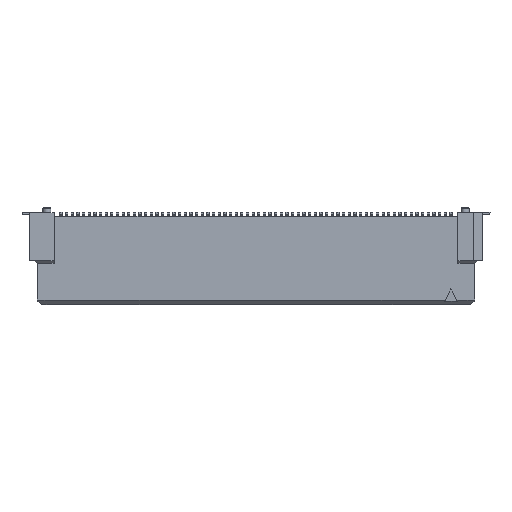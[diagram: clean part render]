
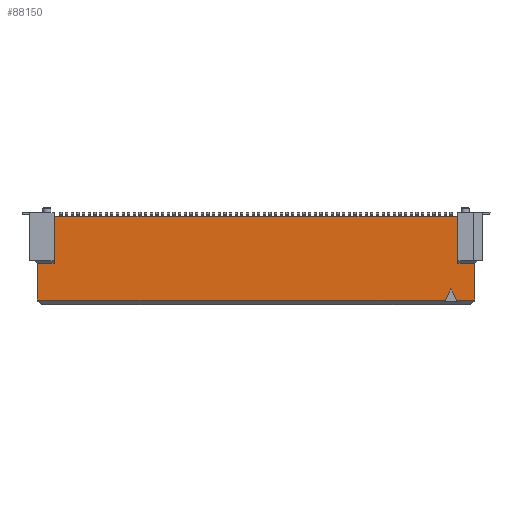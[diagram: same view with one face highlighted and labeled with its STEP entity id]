
A CAD part, front view. The second image highlights one B-rep face of the part: STEP entity #88150.
In plain terms, the highlighted planar face has unit normal (0, -1, 0).
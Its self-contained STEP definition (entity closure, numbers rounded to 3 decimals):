
#4230=CARTESIAN_POINT('',(23.522,1.44,
10.32));
#4240=VERTEX_POINT('',#4230);
#5030=CARTESIAN_POINT('',(23.522,1.44,
6.19));
#5040=VERTEX_POINT('',#5030);
#5070=CARTESIAN_POINT('',(23.522,1.44,
8.755));
#5080=DIRECTION('',(0.,0.,
1.));
#5090=VECTOR('',#5080,1.);
#5100=LINE('',#5070,#5090);
#5110=EDGE_CURVE('',#5040,#4240,#5100,.T.);
#8830=CARTESIAN_POINT('',(25.022,1.44,
6.19));
#8840=VERTEX_POINT('',#8830);
#8870=CARTESIAN_POINT('',(24.372,1.44,
6.19));
#8880=DIRECTION('',(-1.,0.,0.));
#8890=VECTOR('',#8880,1.);
#8900=LINE('',#8870,#8890);
#8910=EDGE_CURVE('',#8840,#5040,#8900,.T.);
#17000=CARTESIAN_POINT('',(25.022,1.44,
3.06));
#17010=VERTEX_POINT('',#17000);
#17040=CARTESIAN_POINT('',(25.022,1.44,
10.39));
#17050=DIRECTION('',(0.,0.,
1.));
#17060=VECTOR('',#17050,1.);
#17070=LINE('',#17040,#17060);
#17080=EDGE_CURVE('',#17010,#8840,#17070,.T.);
#23030=CARTESIAN_POINT('',(24.974,1.44,
2.91));
#23040=VERTEX_POINT('',#23030);
#23070=CARTESIAN_POINT('',(27.371,1.44,
10.39));
#23080=DIRECTION('',(-0.305,0.,
-0.952));
#23090=VECTOR('',#23080,1.);
#23100=LINE('',#23070,#23090);
#23110=EDGE_CURVE('',#17010,#23040,#23100,.T.);
#25490=CARTESIAN_POINT('',(22.912,1.44,
3.91));
#25500=VERTEX_POINT('',#25490);
#25530=CARTESIAN_POINT('',(20.49,1.44,
8.755));
#25540=DIRECTION('',(-0.447,0.,
0.894));
#25550=VECTOR('',#25540,1.);
#25560=LINE('',#25530,#25550);
#25570=CARTESIAN_POINT('',(23.412,1.44,
2.91));
#25580=VERTEX_POINT('',#25570);
#25590=EDGE_CURVE('',#25580,#25500,#25560,.T.);
#86570=CARTESIAN_POINT('',(22.412,1.44,
2.91));
#86580=VERTEX_POINT('',#86570);
#86610=CARTESIAN_POINT('',(25.335,1.44,
8.755));
#86620=DIRECTION('',(-0.447,0.,
-0.894));
#86630=VECTOR('',#86620,1.);
#86640=LINE('',#86610,#86630);
#86650=EDGE_CURVE('',#25500,#86580,#86640,.T.);
#86700=CARTESIAN_POINT('',(2.172,1.44,
2.91));
#86710=DIRECTION('',(0.,1.,
0.));
#86720=DIRECTION('',(0.,0.,
1.));
#86730=AXIS2_PLACEMENT_3D('',#86700,#86710,#86720);
#86740=PLANE('',#86730);
#86750=CARTESIAN_POINT('',(-8.848,1.44,
2.91));
#86760=DIRECTION('',(1.,0.,0.));
#86770=VECTOR('',#86760,1.);
#86780=LINE('',#86750,#86770);
#86790=CARTESIAN_POINT('',(-12.348,1.44,
2.91));
#86800=VERTEX_POINT('',#86790);
#86810=CARTESIAN_POINT('',(-1.838,1.44,
2.91));
#86820=VERTEX_POINT('',#86810);
#86830=EDGE_CURVE('',#86800,#86820,#86780,.T.);
#86840=ORIENTED_EDGE('',*,*,#86830,.T.);
#86850=CARTESIAN_POINT('',(-5.542,1.44,
2.91));
#86860=DIRECTION('',(1.,0.,0.));
#86870=VECTOR('',#86860,1.);
#86880=LINE('',#86850,#86870);
#86890=CARTESIAN_POINT('',(-13.649,1.44,
2.91));
#86900=VERTEX_POINT('',#86890);
#86910=EDGE_CURVE('',#86900,#86800,#86880,.T.);
#86920=ORIENTED_EDGE('',*,*,#86910,.T.);
#86930=CARTESIAN_POINT('',(-16.046,1.44,
10.39));
#86940=DIRECTION('',(0.305,0.,
-0.952));
#86950=VECTOR('',#86940,1.);
#86960=LINE('',#86930,#86950);
#86970=CARTESIAN_POINT('',(-13.698,1.44,
3.06));
#86980=VERTEX_POINT('',#86970);
#86990=EDGE_CURVE('',#86980,#86900,#86960,.T.);
#87000=ORIENTED_EDGE('',*,*,#86990,.T.);
#87010=CARTESIAN_POINT('',(-13.698,1.44,
10.39));
#87020=DIRECTION('',(0.,0.,
1.));
#87030=VECTOR('',#87020,1.);
#87040=LINE('',#87010,#87030);
#87050=CARTESIAN_POINT('',(-13.698,1.44,
6.19));
#87060=VERTEX_POINT('',#87050);
#87070=EDGE_CURVE('',#86980,#87060,#87040,.T.);
#87080=ORIENTED_EDGE('',*,*,#87070,.F.);
#87090=CARTESIAN_POINT('',(-13.048,1.44,
6.19));
#87100=DIRECTION('',(1.,0.,0.));
#87110=VECTOR('',#87100,1.);
#87120=LINE('',#87090,#87110);
#87130=CARTESIAN_POINT('',(-12.198,1.44,
6.19));
#87140=VERTEX_POINT('',#87130);
#87150=EDGE_CURVE('',#87060,#87140,#87120,.T.);
#87160=ORIENTED_EDGE('',*,*,#87150,.F.);
#87170=CARTESIAN_POINT('',(-12.198,1.44,
8.755));
#87180=DIRECTION('',(0.,0.,
1.));
#87190=VECTOR('',#87180,1.);
#87200=LINE('',#87170,#87190);
#87210=CARTESIAN_POINT('',(-12.198,1.44,
10.32));
#87220=VERTEX_POINT('',#87210);
#87230=EDGE_CURVE('',#87140,#87220,#87200,.T.);
#87240=ORIENTED_EDGE('',*,*,#87230,.F.);
#87250=CARTESIAN_POINT('',(-12.348,1.44,
10.32));
#87260=DIRECTION('',(1.,0.,0.));
#87270=VECTOR('',#87260,1.);
#87280=LINE('',#87250,#87270);
#87290=CARTESIAN_POINT('',(-11.838,1.44,
10.32));
#87300=VERTEX_POINT('',#87290);
#87310=EDGE_CURVE('',#87220,#87300,#87280,.T.);
#87320=ORIENTED_EDGE('',*,*,#87310,.F.);
#87330=CARTESIAN_POINT('',(-30.088,1.44,
10.32));
#87340=DIRECTION('',(1.,0.,0.));
#87350=VECTOR('',#87340,1.);
#87360=LINE('',#87330,#87350);
#87370=CARTESIAN_POINT('',(-8.338,1.44,
10.32));
#87380=VERTEX_POINT('',#87370);
#87390=EDGE_CURVE('',#87300,#87380,#87360,.T.);
#87400=ORIENTED_EDGE('',*,*,#87390,.F.);
#87410=CARTESIAN_POINT('',(-24.,1.44,
10.32));
#87420=DIRECTION('',(1.,0.,0.));
#87430=VECTOR('',#87420,1.);
#87440=LINE('',#87410,#87430);
#87450=CARTESIAN_POINT('',(-1.838,1.44,
10.32));
#87460=VERTEX_POINT('',#87450);
#87470=EDGE_CURVE('',#87380,#87460,#87440,.T.);
#87480=ORIENTED_EDGE('',*,*,#87470,.F.);
#87490=CARTESIAN_POINT('',(-39.,1.44,
10.32));
#87500=DIRECTION('',(1.,0.,0.));
#87510=VECTOR('',#87500,1.);
#87520=LINE('',#87490,#87510);
#87530=CARTESIAN_POINT('',(13.162,1.44,
10.32));
#87540=VERTEX_POINT('',#87530);
#87550=EDGE_CURVE('',#87460,#87540,#87520,.T.);
#87560=ORIENTED_EDGE('',*,*,#87550,.F.);
#87570=CARTESIAN_POINT('',(-9.,1.44,
10.32));
#87580=DIRECTION('',(1.,0.,0.));
#87590=VECTOR('',#87580,1.);
#87600=LINE('',#87570,#87590);
#87610=CARTESIAN_POINT('',(19.162,1.44,
10.32));
#87620=VERTEX_POINT('',#87610);
#87630=EDGE_CURVE('',#87540,#87620,#87600,.T.);
#87640=ORIENTED_EDGE('',*,*,#87630,.F.);
#87650=CARTESIAN_POINT('',(-2.588,1.44,
10.32));
#87660=DIRECTION('',(1.,0.,0.));
#87670=VECTOR('',#87660,1.);
#87680=LINE('',#87650,#87670);
#87690=CARTESIAN_POINT('',(23.162,1.44,
10.32));
#87700=VERTEX_POINT('',#87690);
#87710=EDGE_CURVE('',#87620,#87700,#87680,.T.);
#87720=ORIENTED_EDGE('',*,*,#87710,.F.);
#87730=CARTESIAN_POINT('',(23.672,1.44,
10.32));
#87740=DIRECTION('',(-1.,0.,0.));
#87750=VECTOR('',#87740,1.);
#87760=LINE('',#87730,#87750);
#87770=EDGE_CURVE('',#4240,#87700,#87760,.T.);
#87780=ORIENTED_EDGE('',*,*,#87770,.T.);
#87790=ORIENTED_EDGE('',*,*,#5110,.T.);
#87800=ORIENTED_EDGE('',*,*,#8910,.T.);
#87810=ORIENTED_EDGE('',*,*,#17080,.T.);
#87820=ORIENTED_EDGE('',*,*,#23110,.F.);
#87830=CARTESIAN_POINT('',(16.867,1.44,
2.91));
#87840=DIRECTION('',(-1.,0.,0.));
#87850=VECTOR('',#87840,1.);
#87860=LINE('',#87830,#87850);
#87870=CARTESIAN_POINT('',(23.672,1.44,
2.91));
#87880=VERTEX_POINT('',#87870);
#87890=EDGE_CURVE('',#23040,#87880,#87860,.T.);
#87900=ORIENTED_EDGE('',*,*,#87890,.F.);
#87910=CARTESIAN_POINT('',(-2.348,1.44,
2.91));
#87920=DIRECTION('',(1.,0.,0.));
#87930=VECTOR('',#87920,1.);
#87940=LINE('',#87910,#87930);
#87950=EDGE_CURVE('',#25580,#87880,#87940,.T.);
#87960=ORIENTED_EDGE('',*,*,#87950,.T.);
#87970=ORIENTED_EDGE('',*,*,#25590,.F.);
#87980=ORIENTED_EDGE('',*,*,#86650,.F.);
#87990=CARTESIAN_POINT('',(6.152,1.44,
2.91));
#88000=DIRECTION('',(1.,0.,0.));
#88010=VECTOR('',#88000,1.);
#88020=LINE('',#87990,#88010);
#88030=CARTESIAN_POINT('',(13.162,1.44,
2.91));
#88040=VERTEX_POINT('',#88030);
#88050=EDGE_CURVE('',#88040,#86580,#88020,.T.);
#88060=ORIENTED_EDGE('',*,*,#88050,.T.);
#88070=CARTESIAN_POINT('',(-23.848,1.44,
2.91));
#88080=DIRECTION('',(1.,0.,0.));
#88090=VECTOR('',#88080,1.);
#88100=LINE('',#88070,#88090);
#88110=EDGE_CURVE('',#86820,#88040,#88100,.T.);
#88120=ORIENTED_EDGE('',*,*,#88110,.T.);
#88130=EDGE_LOOP('',(#88120,#88060,#87980,#87970,#87960,#87900,#87820,
#87810,#87800,#87790,#87780,#87720,#87640,#87560,#87480,#87400,#87320,
#87240,#87160,#87080,#87000,#86920,#86840));
#88140=FACE_OUTER_BOUND('',#88130,.T.);
#88150=ADVANCED_FACE('',(#88140),#86740,.F.);
